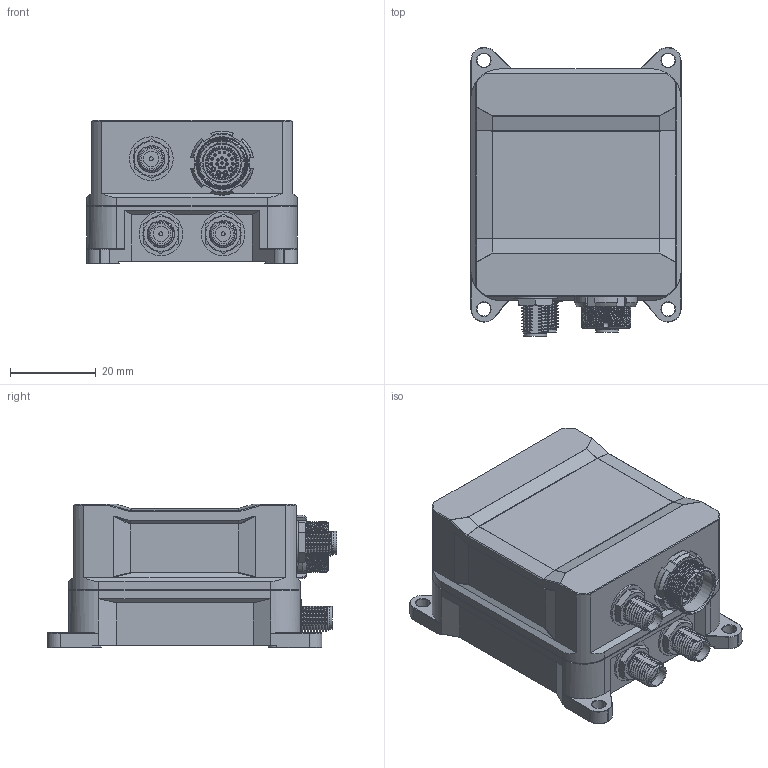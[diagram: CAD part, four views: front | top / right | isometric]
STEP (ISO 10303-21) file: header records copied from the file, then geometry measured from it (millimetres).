
FILE_DESCRIPTION(/* description */ (''),/* implementation_level */ '2;1');
FILE_NAME(/* name */ 'B12_RL_3D-Model_Q3-2026.step',/* time_stamp */ '2026-09-02T16:16:57+02:00',/* author */ (''),/* organization */ (''),/* preprocessor_version */ 'ST-DEVELOPER v20.1',/* originating_system */ 'Autodesk Translation Framework v15.8.0.0',/* authorisation */ '');
FILE_SCHEMA (('AUTOMOTIVE_DESIGN { 1 0 10303 214 3 1 1 }'));
Products named in the file (24): 2026-09-02-09-03-06-920; 2026-09-02-09-03-31-620; 2026-09-02-09-03-31-598; 2026-09-02-09-03-31-620_1; 2026-09-02-09-03-31-619; 2026-09-02-09-05-11-347; 2026-09-02-09-03-31-606; 2026-09-02-09-03-31-606_1; 2026-09-02-09-03-31-606_2; 2026-09-02-09-03-31-606_3; 2026-09-02-09-03-31-606_4; 2026-09-02-09-03-31-606_5; 2026-09-02-09-03-31-606_6; 2026-09-02-09-03-31-606_7; 2026-09-02-09-03-31-606_8; GC1WAM-P20UM00-000L_SJ_HACK; Z10385672; 00143547; GK1W_M-P20UM00-000L v4; ASM0001_ASM_1_ASM; TEMP_SW_STEP_MONOBLOCK_1_ASM; TEMP_SW_STEP_MONOBLOCK_1_1; TEMP_SW_STEP_MONOBLOCK_1_2; 00057989_11
Assembly tree (38 placements, depth 7):
  2026-09-02-09-03-06-920
    2026-09-02-09-03-31-620
      2026-09-02-09-03-31-598
      2026-09-02-09-03-31-620_1
        2026-09-02-09-03-31-619  x4
      2026-09-02-09-05-11-347
      2026-09-02-09-03-31-606
        2026-09-02-09-03-31-606_3
        2026-09-02-09-03-31-606_4
        2026-09-02-09-03-31-606_5
        2026-09-02-09-03-31-606_6
        2026-09-02-09-03-31-606_7
        2026-09-02-09-03-31-606_8
      2026-09-02-09-03-31-606_1
        2026-09-02-09-03-31-606_3
        2026-09-02-09-03-31-606_4
        2026-09-02-09-03-31-606_5
        2026-09-02-09-03-31-606_6
        2026-09-02-09-03-31-606_7
        2026-09-02-09-03-31-606_8
      2026-09-02-09-03-31-606_2
        2026-09-02-09-03-31-606_3
        2026-09-02-09-03-31-606_4
        2026-09-02-09-03-31-606_5
        2026-09-02-09-03-31-606_6
        2026-09-02-09-03-31-606_7
        2026-09-02-09-03-31-606_8
      GC1WAM-P20UM00-000L_SJ_HACK
        Z10385672
        00143547
        GK1W_M-P20UM00-000L v4
          ASM0001_ASM_1_ASM
            TEMP_SW_STEP_MONOBLOCK_1_ASM
              TEMP_SW_STEP_MONOBLOCK_1_1
              TEMP_SW_STEP_MONOBLOCK_1_2
            00057989_11
Bounding box: 49 x 67.4 x 33.5 mm (x, y, z)
Volume: 85344.7 mm3; surface area: 25275.1 mm2
Topology: 50 solids, 50 shells, 2485 faces, 6768 edges, 4362 vertices
Faces by surface type: plane 831, cylinder 681, bspline 411, cone 397, torus 160, sphere 5
Full cylindrical faces by diameter (mm): 0.3 x16, 0.33 x16, 0.4 x12, 0.5 x3, 0.6 x16, 0.64 x16, 0.7 x3, 0.75 x4, 0.78 x3, 0.795 x2, 0.8 x7, 0.83 x1, 0.92 x3, 1.06 x4, 1.12 x4, 2.2 x3, 2.3 x3, 2.5 x4, 2.6 x3, 2.7 x10, 3.1 x3, 3.2 x4, 3.6 x3, 4.7 x7, 5.3 x3, 5.586 x3, 6.35 x6, 6.4 x1, 6.5 x1, 8.87 x1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
Entity records: 127964 total; most frequent: CARTESIAN_POINT 84371, ORIENTED_EDGE 9464, DIRECTION 8541, EDGE_CURVE 4732, AXIS2_PLACEMENT_3D 3256, VERTEX_POINT 3066, LINE 2029, VECTOR 2029
